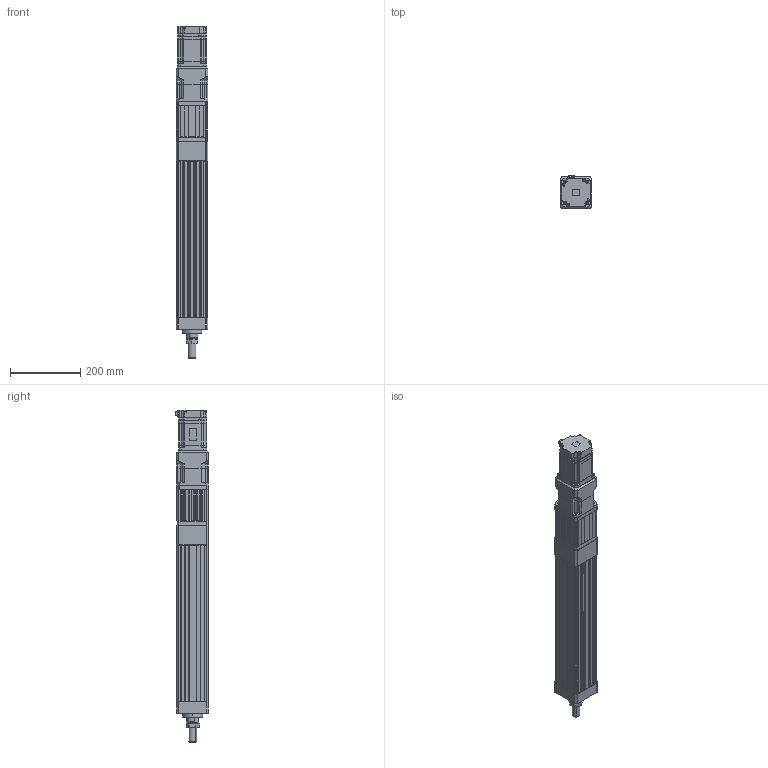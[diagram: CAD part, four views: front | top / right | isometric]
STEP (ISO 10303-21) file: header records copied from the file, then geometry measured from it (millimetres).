
FILE_DESCRIPTION (( 'STEP AP203' ), '1' );
FILE_NAME ('ANS090H-S300-05(10)(25)-W75G05-M.STEP', '2019-03-18T00:58:35', ( 'user' ), ( '' ), 'SwSTEP 2.0', 'SolidWorks 2013', '' );
FILE_SCHEMA (( 'CONFIG_CONTROL_DESIGN' ));
Length unit declared in the file: millimetre
Products named in the file (6): ANS090H S300 VER2; HEXNUT-M22X1.5P; ANS090 ROD ST300-M; SGMJV_08A_A21; AB090-005-S1-P2[YASKAWA SGMJV08A]; ANS090H-S300-05(10)(25)-W75G05-M
Assembly tree (5 placements, depth 2):
  ANS090H-S300-05(10)(25)-W75G05-M
    ANS090H S300 VER2
    HEXNUT-M22X1.5P
    ANS090 ROD ST300-M
    SGMJV_08A_A21
    AB090-005-S1-P2[YASKAWA SGMJV08A]
Bounding box: 90 x 93.8 x 944.1 mm (x, y, z)
Volume: 3519980.3 mm3; surface area: 665936.8 mm2
Topology: 4 solids, 11 shells, 1615 faces, 4344 edges, 2802 vertices
Faces by surface type: plane 986, cylinder 481, cone 136, bspline 12
Entity records: 51143 total; most frequent: CARTESIAN_POINT 9819, ORIENTED_EDGE 8552, DIRECTION 8387, EDGE_CURVE 4320, VECTOR 3095, LINE 3095, VERTEX_POINT 2802, AXIS2_PLACEMENT_3D 2646
